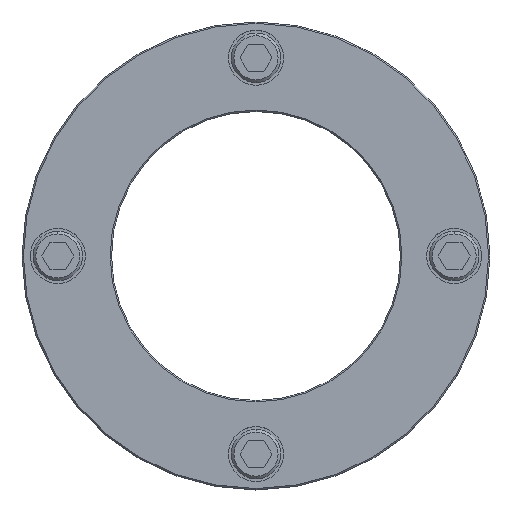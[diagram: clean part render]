
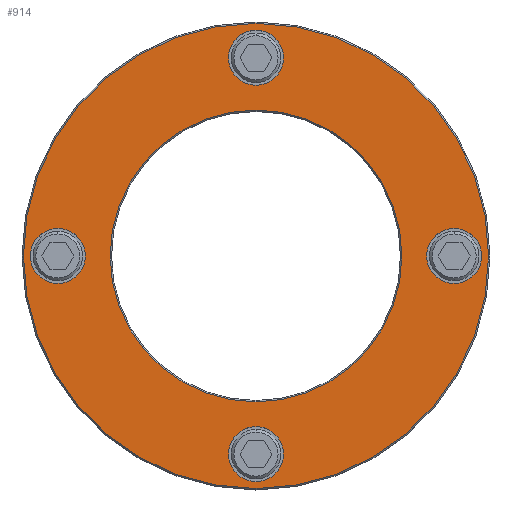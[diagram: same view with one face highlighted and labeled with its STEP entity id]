
A CAD part, top view. The second image highlights one B-rep face of the part: STEP entity #914.
In plain terms, the highlighted planar face has unit normal (0, 0, 1).
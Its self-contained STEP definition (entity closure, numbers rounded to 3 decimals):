
#105=VERTEX_POINT(' ',#106);
#106=CARTESIAN_POINT('',(0.,62.,20.));
#107=VERTEX_POINT(' ',#108);
#108=CARTESIAN_POINT('',(0.,82.,20.));
#113=VERTEX_POINT(' ',#114);
#114=CARTESIAN_POINT('',(0.,-82.,20.));
#115=VERTEX_POINT(' ',#116);
#116=CARTESIAN_POINT('',(0.,-62.,20.));
#125=VERTEX_POINT(' ',#126);
#126=CARTESIAN_POINT('',(72.,10.,20.));
#127=VERTEX_POINT(' ',#128);
#128=CARTESIAN_POINT('',(72.,-10.,20.));
#133=VERTEX_POINT(' ',#134);
#134=CARTESIAN_POINT('',(-72.,10.,20.));
#135=VERTEX_POINT(' ',#136);
#136=CARTESIAN_POINT('',(-72.,-10.,20.));
#155=VERTEX_POINT(' ',#156);
#156=CARTESIAN_POINT('',(0.,84.5,20.));
#157=VERTEX_POINT(' ',#158);
#158=CARTESIAN_POINT('',(0.,-84.5,20.));
#161=VERTEX_POINT(' ',#162);
#162=CARTESIAN_POINT('',(0.,-53.,20.));
#163=VERTEX_POINT(' ',#164);
#164=CARTESIAN_POINT('',(0.,53.,20.));
#253=CIRCLE('',#254,10.);
#254=AXIS2_PLACEMENT_3D('',#255,#256,#257);
#255=CARTESIAN_POINT('',(0.,72.,20.));
#256=DIRECTION('',(0.,0.,-1.));
#257=DIRECTION('',(-1.,0.,0.));
#258=EDGE_CURVE(' ',#105,#107,#253,.F.);
#275=CIRCLE('',#276,10.);
#276=AXIS2_PLACEMENT_3D('',#277,#278,#279);
#277=CARTESIAN_POINT('',(0.,72.,20.));
#278=DIRECTION('',(0.,0.,-1.));
#279=DIRECTION('',(1.,0.,0.));
#280=EDGE_CURVE(' ',#107,#105,#275,.F.);
#287=CIRCLE('',#288,10.);
#288=AXIS2_PLACEMENT_3D('',#289,#290,#291);
#289=CARTESIAN_POINT('',(0.,-72.,20.));
#290=DIRECTION('',(0.,0.,-1.));
#291=DIRECTION('',(-1.,0.,0.));
#292=EDGE_CURVE(' ',#113,#115,#287,.F.);
#309=CIRCLE('',#310,10.);
#310=AXIS2_PLACEMENT_3D('',#311,#312,#313);
#311=CARTESIAN_POINT('',(0.,-72.,20.));
#312=DIRECTION('',(0.,0.,-1.));
#313=DIRECTION('',(1.,0.,0.));
#314=EDGE_CURVE(' ',#115,#113,#309,.F.);
#332=CIRCLE('',#333,10.);
#333=AXIS2_PLACEMENT_3D('',#334,#335,#336);
#334=CARTESIAN_POINT('',(72.,0.,20.));
#335=DIRECTION('',(0.,0.,1.));
#336=DIRECTION('',(1.,0.,0.));
#337=EDGE_CURVE(' ',#125,#127,#332,.T.);
#349=CIRCLE('',#350,10.);
#350=AXIS2_PLACEMENT_3D('',#351,#352,#353);
#351=CARTESIAN_POINT('',(72.,0.,20.));
#352=DIRECTION('',(0.,0.,1.));
#353=DIRECTION('',(-1.,0.,0.));
#354=EDGE_CURVE(' ',#127,#125,#349,.T.);
#366=CIRCLE('',#367,10.);
#367=AXIS2_PLACEMENT_3D('',#368,#369,#370);
#368=CARTESIAN_POINT('',(-72.,0.,20.));
#369=DIRECTION('',(0.,0.,1.));
#370=DIRECTION('',(1.,0.,0.));
#371=EDGE_CURVE(' ',#133,#135,#366,.T.);
#383=CIRCLE('',#384,10.);
#384=AXIS2_PLACEMENT_3D('',#385,#386,#387);
#385=CARTESIAN_POINT('',(-72.,0.,20.));
#386=DIRECTION('',(0.,0.,1.));
#387=DIRECTION('',(-1.,0.,0.));
#388=EDGE_CURVE(' ',#135,#133,#383,.T.);
#462=CIRCLE('',#463,84.5);
#463=AXIS2_PLACEMENT_3D('',#464,#465,#466);
#464=CARTESIAN_POINT('',(0.,0.,20.));
#465=DIRECTION('',(0.,0.,1.));
#466=DIRECTION('',(-1.,0.,0.));
#467=EDGE_CURVE(' ',#155,#157,#462,.F.);
#485=CIRCLE('',#486,84.5);
#486=AXIS2_PLACEMENT_3D('',#487,#488,#489);
#487=CARTESIAN_POINT('',(0.,0.,20.));
#488=DIRECTION('',(0.,0.,1.));
#489=DIRECTION('',(1.,0.,0.));
#490=EDGE_CURVE(' ',#157,#155,#485,.F.);
#491=CIRCLE('',#492,53.);
#492=AXIS2_PLACEMENT_3D('',#493,#494,#495);
#493=CARTESIAN_POINT('',(0.,0.,20.));
#494=DIRECTION('',(0.,0.,-1.));
#495=DIRECTION('',(1.,0.,0.));
#496=EDGE_CURVE(' ',#163,#161,#491,.F.);
#497=CIRCLE('',#498,53.);
#498=AXIS2_PLACEMENT_3D('',#499,#500,#501);
#499=CARTESIAN_POINT('',(0.,0.,20.));
#500=DIRECTION('',(0.,0.,-1.));
#501=DIRECTION('',(-1.,0.,0.));
#502=EDGE_CURVE(' ',#161,#163,#497,.F.);
#885=ORIENTED_EDGE('',*,*,#467,.F.);
#886=ORIENTED_EDGE('',*,*,#490,.F.);
#887=EDGE_LOOP('',(#885,#886));
#888=FACE_OUTER_BOUND('',#887,.T.);
#889=ORIENTED_EDGE('',*,*,#496,.F.);
#890=ORIENTED_EDGE('',*,*,#502,.F.);
#891=EDGE_LOOP('',(#889,#890));
#892=FACE_BOUND('',#891,.T.);
#893=ORIENTED_EDGE('',*,*,#388,.F.);
#894=ORIENTED_EDGE('',*,*,#371,.F.);
#895=EDGE_LOOP('',(#893,#894));
#896=FACE_BOUND('',#895,.T.);
#897=ORIENTED_EDGE('',*,*,#354,.F.);
#898=ORIENTED_EDGE('',*,*,#337,.F.);
#899=EDGE_LOOP('',(#897,#898));
#900=FACE_BOUND('',#899,.T.);
#901=ORIENTED_EDGE('',*,*,#314,.F.);
#902=ORIENTED_EDGE('',*,*,#292,.F.);
#903=EDGE_LOOP('',(#901,#902));
#904=FACE_BOUND('',#903,.T.);
#905=ORIENTED_EDGE('',*,*,#280,.F.);
#906=ORIENTED_EDGE('',*,*,#258,.F.);
#907=EDGE_LOOP('',(#905,#906));
#908=FACE_BOUND('',#907,.T.);
#909=PLANE('',#910);
#910=AXIS2_PLACEMENT_3D('',#911,#912,#913);
#911=CARTESIAN_POINT('',(85.,0.,20.));
#912=DIRECTION('',(0.,0.,1.));
#913=DIRECTION('',(0.,1.,0.));
#914=ADVANCED_FACE('',(#888,#892,#896,#900,#904,#908),#909,.T.);
